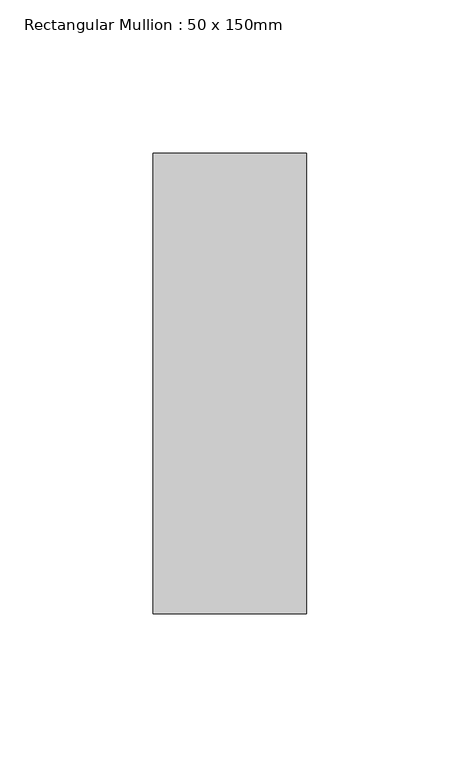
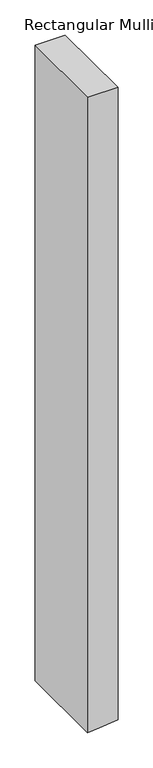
"""IFC4 building model written with IfcOpenShell, lengths in millimetres: member geometry, Rectangular Mullion : 50 x 150mm."""

from ifc_helpers import new_model, si_unit, frame, origin, place, context, project, spatial, polyline, outline, extrude, source, transform, mapped, element, save


def rectangular_mullion_50_x_150mm_1cc2dfee(model_context):
    return source(origin(), model_context, "Body", "SweptSolid", [
        extrude(outline(polyline([(0.0, 25.0), (0.0, -25.0), (-1106.4500009, -25.0), (-1104.4392337, -5.0022633), (-1101.4225141, 25.0), (0.0, 25.0)])), frame((0.0, -75.0, 0.0), z_axis=(0.0, 1.0, 0.0), x_axis=(0.0, 0.0, 1.0)), (0.0, 0.0, 1.0), 150.0),
    ])


if __name__ == "__main__":
    model = new_model("IFC4")
    model_context = context("Model", 3, world=origin())
    ifc_project = project(units=[si_unit("LENGTHUNIT", "METRE", prefix="MILLI")], contexts=[model_context])
    site = spatial("IfcSite", under=ifc_project)
    building = spatial("IfcBuilding", under=site)
    placement = place(None, origin())
    rectangular_mullion_50_x_150mm_shape = rectangular_mullion_50_x_150mm_1cc2dfee(model_context)
    element("IfcMember", 1, ObjectType="Rectangular Mullion : 50 x 150mm", at=placement, inside=building, context=model_context, shape_type="MappedRepresentation", body=[
        mapped(rectangular_mullion_50_x_150mm_shape, transform((0.0, 0.0, 0.0), x_axis=(1.0, 0.0, 0.0), y_axis=(0.0, 1.0, 0.0), z_axis=(0.0, 0.0, 1.0))),
    ])
    save(model, "model.ifc")
